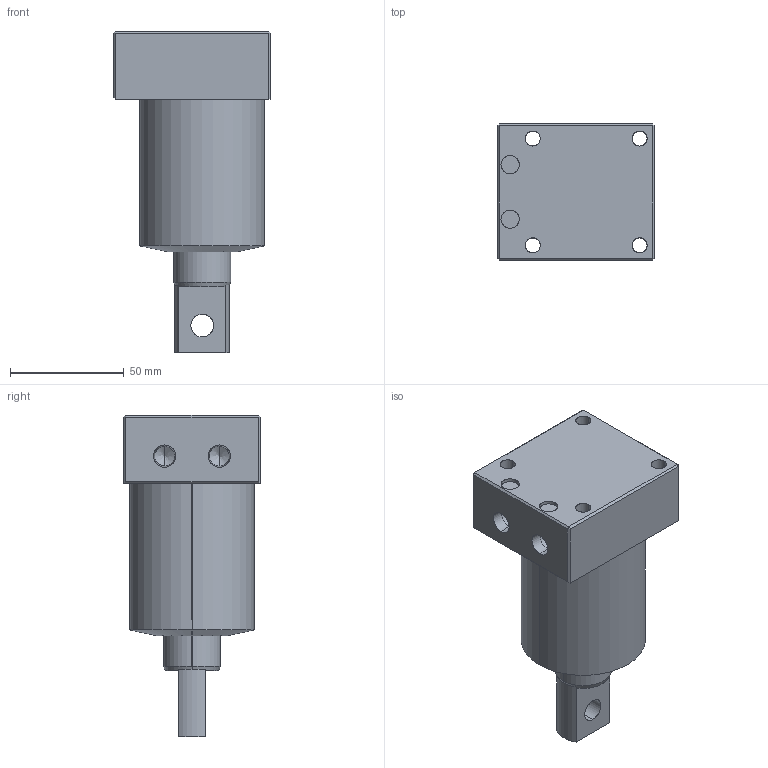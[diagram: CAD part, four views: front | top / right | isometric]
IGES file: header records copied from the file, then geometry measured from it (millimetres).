
Start section: SolidWorks IGES file using analytic representation for surfaces
Global section: file name: E:\ALL SSVT IGS MODEL\ALL-SWING-IGS\SWING-55\SWING-BM-55-PTYPE-LH-RH\SB03-552-LP-PTYPE-BM.IGS; native system: SolidWorks 2019; preprocessor: SolidWorks 2019; author: SSVT; date: 210822.135302; units: millimetre
Bounding box: 69 x 60 x 141.5 mm (x, y, z)
Surface area: 45884.1 mm2 (no closed solid volume)
Topology: 0 solids, 0 shells, 68 faces, 1039 edges, 1035 vertices
Faces by surface type: revolution 39, bspline 29
